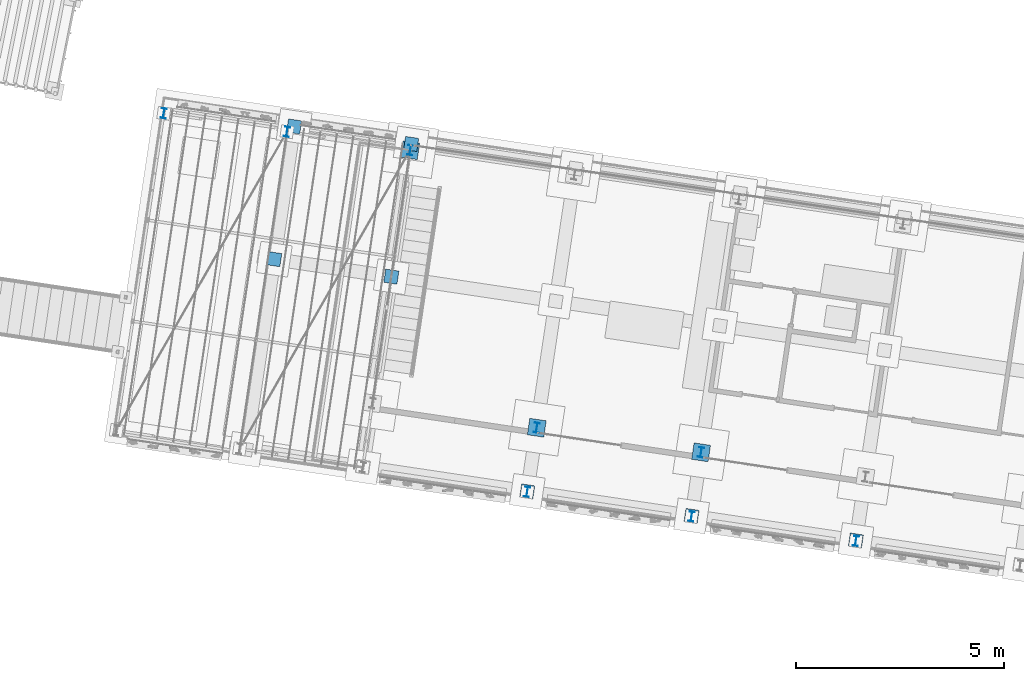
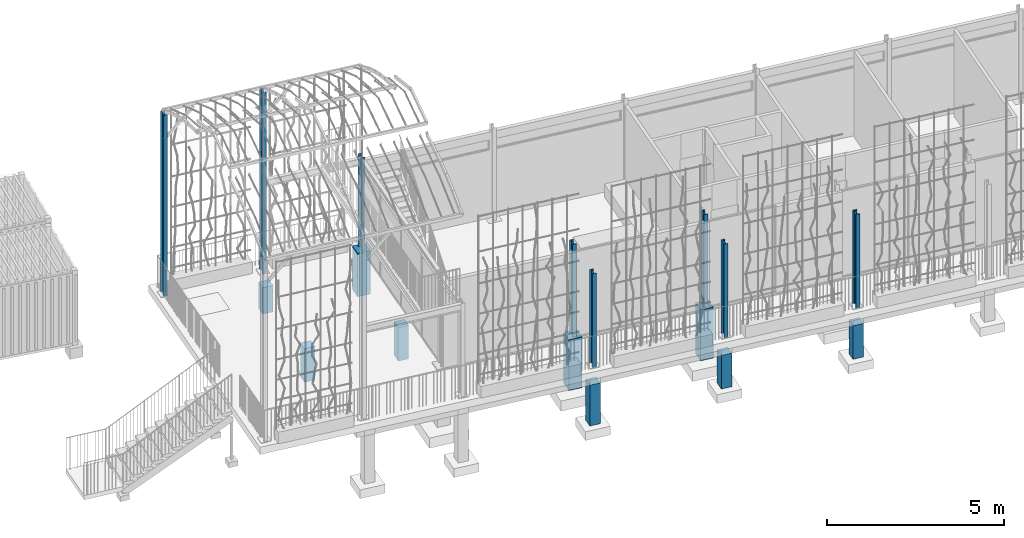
# One storey, part 3 of 142: 18 columns, 2 elements without a shape of their own.
"""IFC4 building model written with IfcOpenShell, lengths in metres."""

from ifc_helpers import new_model, si_unit, direction, frame, origin_with_axes, place, context, subcontext, project, spatial, polyline, i_section, outline, extrude, material, material_profile, profile_set, profile_usage, type_object, element, aggregate, save


model = new_model("IFC4")

# Units and contexts
model_context = context("Model", 3, precision=1e-05, world=origin_with_axes(), true_north=direction((0.0, 1.0)))
body_context = subcontext(model_context, "Body", "Model", "MODEL_VIEW")
ifc_project = project(units=[si_unit("LENGTHUNIT", "METRE"), si_unit("AREAUNIT", "SQUARE_METRE"), si_unit("VOLUMEUNIT", "CUBIC_METRE")], contexts=[model_context])

# Site, building, storey
site_placement = place(None, origin_with_axes())
site = spatial("IfcSite", under=ifc_project, at=site_placement, Name="Lares · Rua das Mercês · artigo 4771")
building_placement = place(site_placement, frame((15.0, 9.7, 14.65), z_axis=(0.0, 0.0, 1.0), x_axis=(0.989015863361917, -0.147809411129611, 0.0)))
building = spatial("IfcBuilding", under=site, at=building_placement, Name="Casa Sobreposta")
storey_placement = place(building_placement, origin_with_axes())
storey = spatial("IfcBuildingStorey", under=building, at=storey_placement, Name="00 · Habitação e estacionamento", Elevation=14.65)

# Columns
ifc_material_1 = material(Name="Aço pintado / Stahl lackiert", Category="steel")
ifc_material_profile = material_profile(ifc_material_1, i_section(OverallWidth=0.12, OverallDepth=0.24, WebThickness=0.0062, FlangeThickness=0.0098))
ifc_profile_set = profile_set([ifc_material_profile], Name="IPE240")
ifc_profile_usage_1 = profile_usage(ifc_profile_set)
column_type = type_object("IfcColumnType", Name="IPE240 / steel", PredefinedType="NOTDEFINED", material=ifc_profile_set)
column_1_placement = place(storey_placement, frame((0.0, 6.28, 0.0), z_axis=(0.0, 0.0, 1.0), x_axis=(1.0, 0.0, 0.0)))
element("IfcColumn", 1, at=column_1_placement, inside=storey, type_object=column_type, material=ifc_profile_usage_1, Name="Pilar 1B · IPE240", context=body_context, shape_type="SweptSolid", body=[
    extrude(i_section(OverallWidth=0.12, OverallDepth=0.24, WebThickness=0.0062, FlangeThickness=0.0098), origin_with_axes(), (0.0, 0.0, 1.0), 3.208),
])
ifc_profile_usage_2 = profile_usage(ifc_profile_set)
column_2_placement = place(storey_placement, frame((4.0, 0.12, 0.0), z_axis=(0.0, 0.0, 1.0), x_axis=(1.0, 0.0, 0.0)))
element("IfcColumn", 2, at=column_2_placement, inside=storey, type_object=column_type, material=ifc_profile_usage_2, Name="Pilar 2A · IPE240", context=body_context, shape_type="SweptSolid", body=[
    extrude(i_section(OverallWidth=0.12, OverallDepth=0.24, WebThickness=0.0062, FlangeThickness=0.0098), origin_with_axes(), (0.0, 0.0, 1.0), 3.208),
])
ifc_profile_usage_3 = profile_usage(ifc_profile_set)
column_3_placement = place(storey_placement, frame((8.0, 0.12, 0.0), z_axis=(0.0, 0.0, 1.0), x_axis=(1.0, 0.0, 0.0)))
element("IfcColumn", 3, at=column_3_placement, inside=storey, type_object=column_type, material=ifc_profile_usage_3, Name="Pilar 3A · IPE240", context=body_context, shape_type="SweptSolid", body=[
    extrude(i_section(OverallWidth=0.12, OverallDepth=0.24, WebThickness=0.0062, FlangeThickness=0.0098), origin_with_axes(), (0.0, 0.0, 1.0), 3.208),
])

# Assembly, columns
assembly_1_placement = place(storey_placement, origin_with_axes())
assembly_1 = element("IfcElementAssembly", 4, at=assembly_1_placement, inside=storey, Name="Pérgola · prolongamento da estufa 6 m", ObjectType="PERGOLA_GREENHOUSE_EXTENSION", PredefinedType="USERDEFINED")
ifc_profile_usage_4 = profile_usage(ifc_profile_set)
column_4_placement = place(assembly_1_placement, frame((-6.0, 6.28, -0.04), z_axis=(0.0, 0.0, 1.0), x_axis=(1.0, 0.0, 0.0)))
column_4 = element("IfcColumn", 5, at=column_4_placement, type_object=column_type, material=ifc_profile_usage_4, Name="Pérgola · pilar de duplo pé-direito", context=body_context, shape_type="SweptSolid", body=[
    extrude(i_section(OverallWidth=0.12, OverallDepth=0.24, WebThickness=0.0062, FlangeThickness=0.0098), origin_with_axes(), (0.0, 0.0, 1.0), 6.26),
])
ifc_profile_usage_5 = profile_usage(ifc_profile_set)
column_5_placement = place(assembly_1_placement, frame((-3.0, 6.28, -0.04), z_axis=(0.0, 0.0, 1.0), x_axis=(1.0, 0.0, 0.0)))
column_5 = element("IfcColumn", 6, at=column_5_placement, type_object=column_type, material=ifc_profile_usage_5, Name="Pérgola · pilar de duplo pé-direito", context=body_context, shape_type="SweptSolid", body=[
    extrude(i_section(OverallWidth=0.12, OverallDepth=0.24, WebThickness=0.0062, FlangeThickness=0.0098), origin_with_axes(), (0.0, 0.0, 1.0), 6.26),
])
aggregate(assembly_1, [column_4, column_5])

# Columns
ifc_profile_usage_6 = profile_usage(ifc_profile_set)
column_6_placement = place(storey_placement, frame((4.0, -1.44, -0.04), z_axis=(0.0, 0.0, 1.0), x_axis=(1.0, 0.0, 0.0)))
element("IfcColumn", 7, at=column_6_placement, inside=storey, type_object=column_type, material=ifc_profile_usage_6, Name="Projeção estufa · pilar sul ao pódio", context=body_context, shape_type="SweptSolid", body=[
    extrude(i_section(OverallWidth=0.12, OverallDepth=0.24, WebThickness=0.0062, FlangeThickness=0.0098), origin_with_axes(), (0.0, 0.0, 1.0), 3.248),
])
ifc_profile_usage_7 = profile_usage(ifc_profile_set)
column_7_placement = place(storey_placement, frame((8.0, -1.44, -0.04), z_axis=(0.0, 0.0, 1.0), x_axis=(1.0, 0.0, 0.0)))
element("IfcColumn", 8, at=column_7_placement, inside=storey, type_object=column_type, material=ifc_profile_usage_7, Name="Projeção estufa · pilar sul ao pódio", context=body_context, shape_type="SweptSolid", body=[
    extrude(i_section(OverallWidth=0.12, OverallDepth=0.24, WebThickness=0.0062, FlangeThickness=0.0098), origin_with_axes(), (0.0, 0.0, 1.0), 3.248),
])
ifc_profile_usage_8 = profile_usage(ifc_profile_set)
column_8_placement = place(storey_placement, frame((12.0, -1.44, -0.04), z_axis=(0.0, 0.0, 1.0), x_axis=(1.0, 0.0, 0.0)))
element("IfcColumn", 9, at=column_8_placement, inside=storey, type_object=column_type, material=ifc_profile_usage_8, Name="Projeção estufa · pilar sul ao pódio", context=body_context, shape_type="SweptSolid", body=[
    extrude(i_section(OverallWidth=0.12, OverallDepth=0.24, WebThickness=0.0062, FlangeThickness=0.0098), origin_with_axes(), (0.0, 0.0, 1.0), 3.248),
])
ifc_material_2 = material(Name="Betão armado / Stahlbeton", Category="concrete")
column_9_placement = place(storey_placement, frame((0.0, 0.0, -1.5), z_axis=(0.0, 0.0, 1.0), x_axis=(1.0, 0.0, 0.0)))
element("IfcColumn", 10, at=column_9_placement, inside=storey, material=ifc_material_2, Name="Pedestal 1B · betão 400 x 400", context=body_context, shape_type="SweptSolid", body=[
    extrude(outline(polyline([(0.2, 6.08), (0.2, 6.48), (-0.2, 6.48), (-0.2, 6.08), (0.2, 6.08)])), origin_with_axes(), (0.0, 0.0, 1.0), 1.5),
])
column_10_placement = place(storey_placement, frame((0.0, 0.0, -1.75), z_axis=(0.0, 0.0, 1.0), x_axis=(1.0, 0.0, 0.0)))
element("IfcColumn", 11, at=column_10_placement, inside=storey, material=ifc_material_2, Name="Pedestal 2A · betão 400 x 400", context=body_context, shape_type="SweptSolid", body=[
    extrude(outline(polyline([(4.2, -0.08), (4.2, 0.32), (3.8, 0.32), (3.8, -0.08), (4.2, -0.08)])), origin_with_axes(), (0.0, 0.0, 1.0), 1.75),
])
column_11_placement = place(storey_placement, frame((0.0, 0.0, -1.75), z_axis=(0.0, 0.0, 1.0), x_axis=(1.0, 0.0, 0.0)))
element("IfcColumn", 12, at=column_11_placement, inside=storey, material=ifc_material_2, Name="Pedestal 3A · betão 400 x 400", context=body_context, shape_type="SweptSolid", body=[
    extrude(outline(polyline([(8.2, -0.08), (8.2, 0.32), (7.8, 0.32), (7.8, -0.08), (8.2, -0.08)])), origin_with_axes(), (0.0, 0.0, 1.0), 1.75),
])

# Assembly, columns
assembly_2_placement = place(storey_placement, origin_with_axes())
assembly_2 = element("IfcElementAssembly", 13, at=assembly_2_placement, inside=storey, Name="Pódio · terraço, casa térrea e cisterna", ObjectType="CISTERN_PODIUM", PredefinedType="USERDEFINED")
column_12_placement = place(assembly_2_placement, frame((0.0, 0.0, -1.75), z_axis=(0.0, 0.0, 1.0), x_axis=(1.0, 0.0, 0.0)))
column_12 = element("IfcColumn", 14, at=column_12_placement, material=ifc_material_2, Name="Pódio suspenso · apoio sobre o terreno", context=body_context, shape_type="SweptSolid", body=[
    extrude(outline(polyline([(-2.69, 3.04), (-2.69, 3.36), (-3.01, 3.36), (-3.01, 3.04), (-2.69, 3.04)])), origin_with_axes(), (0.0, 0.0, 1.0), 1.16),
])
column_13_placement = place(assembly_2_placement, frame((0.0, 0.0, -1.5), z_axis=(0.0, 0.0, 1.0), x_axis=(1.0, 0.0, 0.0)))
column_13 = element("IfcColumn", 15, at=column_13_placement, material=ifc_material_2, Name="Pódio suspenso · apoio sobre o terreno", context=body_context, shape_type="SweptSolid", body=[
    extrude(outline(polyline([(-2.69, 6.27), (-2.69, 6.59), (-3.01, 6.59), (-3.01, 6.27), (-2.69, 6.27)])), origin_with_axes(), (0.0, 0.0, 1.0), 0.91),
])
column_14_placement = place(assembly_2_placement, frame((0.0, 0.0, -1.75), z_axis=(0.0, 0.0, 1.0), x_axis=(1.0, 0.0, 0.0)))
column_14 = element("IfcColumn", 16, at=column_14_placement, material=ifc_material_2, Name="Pódio suspenso · apoio sobre o terreno", context=body_context, shape_type="SweptSolid", body=[
    extrude(outline(polyline([(0.16, 3.04), (0.16, 3.36), (-0.16, 3.36), (-0.16, 3.04), (0.16, 3.04)])), origin_with_axes(), (0.0, 0.0, 1.0), 1.16),
])
column_15_placement = place(assembly_2_placement, frame((0.0, 0.0, -1.5), z_axis=(0.0, 0.0, 1.0), x_axis=(1.0, 0.0, 0.0)))
column_15 = element("IfcColumn", 17, at=column_15_placement, material=ifc_material_2, Name="Pódio suspenso · apoio sobre o terreno", context=body_context, shape_type="SweptSolid", body=[
    extrude(outline(polyline([(0.16, 6.27), (0.16, 6.59), (-0.16, 6.59), (-0.16, 6.27), (0.16, 6.27)])), origin_with_axes(), (0.0, 0.0, 1.0), 0.91),
])
column_16_placement = place(assembly_2_placement, frame((0.0, 0.0, -2.0), z_axis=(0.0, 0.0, 1.0), x_axis=(1.0, 0.0, 0.0)))
column_16 = element("IfcColumn", 18, at=column_16_placement, material=ifc_material_2, Name="Pódio suspenso · apoio sobre o terreno", context=body_context, shape_type="SweptSolid", body=[
    extrude(outline(polyline([(4.16, -1.59), (4.16, -1.27), (3.84, -1.27), (3.84, -1.59), (4.16, -1.59)])), origin_with_axes(), (0.0, 0.0, 1.0), 1.41),
])
column_17_placement = place(assembly_2_placement, frame((0.0, 0.0, -1.75), z_axis=(0.0, 0.0, 1.0), x_axis=(1.0, 0.0, 0.0)))
column_17 = element("IfcColumn", 19, at=column_17_placement, material=ifc_material_2, Name="Pódio suspenso · apoio sobre o terreno", context=body_context, shape_type="SweptSolid", body=[
    extrude(outline(polyline([(8.16, -1.59), (8.16, -1.27), (7.84, -1.27), (7.84, -1.59), (8.16, -1.59)])), origin_with_axes(), (0.0, 0.0, 1.0), 1.16),
])
column_18_placement = place(assembly_2_placement, frame((0.0, 0.0, -1.75), z_axis=(0.0, 0.0, 1.0), x_axis=(1.0, 0.0, 0.0)))
column_18 = element("IfcColumn", 20, at=column_18_placement, material=ifc_material_2, Name="Pódio suspenso · apoio sobre o terreno", context=body_context, shape_type="SweptSolid", body=[
    extrude(outline(polyline([(12.16, -1.59), (12.16, -1.27), (11.84, -1.27), (11.84, -1.59), (12.16, -1.59)])), origin_with_axes(), (0.0, 0.0, 1.0), 1.16),
])
aggregate(assembly_2, [column_12, column_13, column_14, column_15, column_16, column_17, column_18])

save(model, "model.ifc")
